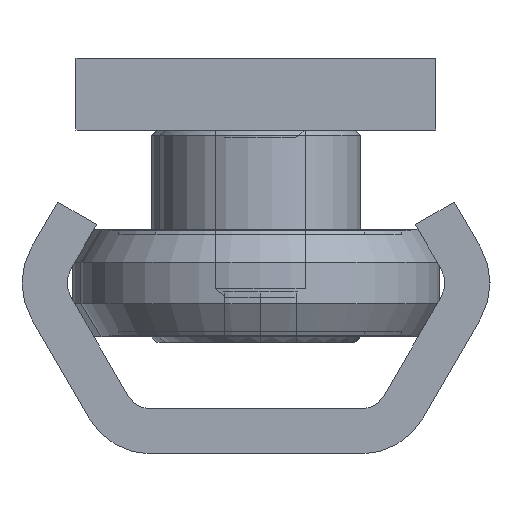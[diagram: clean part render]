
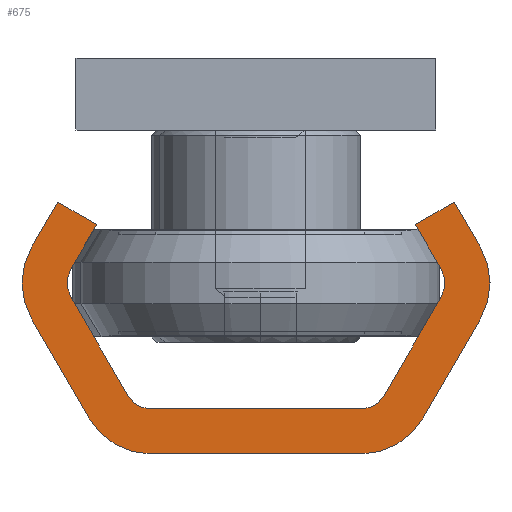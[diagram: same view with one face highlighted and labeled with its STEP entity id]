
A CAD part, left-side view. The second image highlights one B-rep face of the part: STEP entity #675.
In plain terms, the highlighted planar face has unit normal (-1, 0, 0).
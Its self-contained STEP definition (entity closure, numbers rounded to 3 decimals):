
#675 = ADVANCED_FACE( '', ( #1481 ), #1482, .F. );
#1481 = FACE_OUTER_BOUND( '', #2479, .T. );
#1482 = PLANE( '', #2480 );
#2479 = EDGE_LOOP( '', ( #3817, #3818, #3819, #3820, #3821, #3822, #3823, #3824, #3825, #3826, #3827, #3828, #3829, #3830, #3831, #3832, #3833, #3834, #3835, #3836 ) );
#2480 = AXIS2_PLACEMENT_3D( '', #3837, #3838, #3839 );
#3817 = ORIENTED_EDGE( '', *, *, #4075, .F. );
#3818 = ORIENTED_EDGE( '', *, *, #4436, .F. );
#3819 = ORIENTED_EDGE( '', *, *, #4443, .F. );
#3820 = ORIENTED_EDGE( '', *, *, #4145, .F. );
#3821 = ORIENTED_EDGE( '', *, *, #4486, .F. );
#3822 = ORIENTED_EDGE( '', *, *, #4482, .F. );
#3823 = ORIENTED_EDGE( '', *, *, #4246, .F. );
#3824 = ORIENTED_EDGE( '', *, *, #4258, .T. );
#3825 = ORIENTED_EDGE( '', *, *, #4302, .F. );
#3826 = ORIENTED_EDGE( '', *, *, #4505, .T. );
#3827 = ORIENTED_EDGE( '', *, *, #4347, .F. );
#3828 = ORIENTED_EDGE( '', *, *, #4115, .T. );
#3829 = ORIENTED_EDGE( '', *, *, #4491, .F. );
#3830 = ORIENTED_EDGE( '', *, *, #4454, .T. );
#3831 = ORIENTED_EDGE( '', *, *, #4211, .F. );
#3832 = ORIENTED_EDGE( '', *, *, #4503, .F. );
#3833 = ORIENTED_EDGE( '', *, *, #4290, .F. );
#3834 = ORIENTED_EDGE( '', *, *, #4029, .F. );
#3835 = ORIENTED_EDGE( '', *, *, #4441, .F. );
#3836 = ORIENTED_EDGE( '', *, *, #4108, .F. );
#3837 = CARTESIAN_POINT( '', ( 0., -5.825, -4. ) );
#3838 = DIRECTION( '', ( 1., 0., 0. ) );
#3839 = DIRECTION( '', ( 0., 0., -1. ) );
#4029 = EDGE_CURVE( '', #4584, #4585, #4586, .T. );
#4075 = EDGE_CURVE( '', #4675, #4676, #4677, .T. );
#4108 = EDGE_CURVE( '', #4676, #4730, #4731, .T. );
#4115 = EDGE_CURVE( '', #4741, #4742, #4743, .T. );
#4145 = EDGE_CURVE( '', #4789, #4790, #4791, .T. );
#4211 = EDGE_CURVE( '', #4894, #4895, #4896, .T. );
#4246 = EDGE_CURVE( '', #4950, #4951, #4952, .T. );
#4258 = EDGE_CURVE( '', #4950, #4969, #4970, .T. );
#4290 = EDGE_CURVE( '', #4585, #5020, #5021, .T. );
#4302 = EDGE_CURVE( '', #5037, #4969, #5038, .T. );
#4347 = EDGE_CURVE( '', #4741, #5117, #5118, .T. );
#4436 = EDGE_CURVE( '', #5236, #4675, #5237, .T. );
#4441 = EDGE_CURVE( '', #4730, #4584, #5243, .T. );
#4443 = EDGE_CURVE( '', #4790, #5236, #5245, .T. );
#4454 = EDGE_CURVE( '', #5259, #4895, #5260, .T. );
#4482 = EDGE_CURVE( '', #4951, #5297, #5298, .T. );
#4486 = EDGE_CURVE( '', #5297, #4789, #5302, .T. );
#4491 = EDGE_CURVE( '', #5259, #4742, #5307, .T. );
#4503 = EDGE_CURVE( '', #5020, #4894, #5320, .T. );
#4505 = EDGE_CURVE( '', #5037, #5117, #5322, .T. );
#4584 = VERTEX_POINT( '', #5406 );
#4585 = VERTEX_POINT( '', #5407 );
#4586 = CIRCLE( '', #5408, 4. );
#4675 = VERTEX_POINT( '', #5499 );
#4676 = VERTEX_POINT( '', #5500 );
#4677 = LINE( '', #5501, #5502 );
#4730 = VERTEX_POINT( '', #5562 );
#4731 = CIRCLE( '', #5563, 4. );
#4741 = VERTEX_POINT( '', #5574 );
#4742 = VERTEX_POINT( '', #5575 );
#4743 = CIRCLE( '', #5576, 1.5 );
#4789 = VERTEX_POINT( '', #5635 );
#4790 = VERTEX_POINT( '', #5636 );
#4791 = CIRCLE( '', #5637, 4. );
#4894 = VERTEX_POINT( '', #5761 );
#4895 = VERTEX_POINT( '', #5762 );
#4896 = LINE( '', #5763, #5764 );
#4950 = VERTEX_POINT( '', #5836 );
#4951 = VERTEX_POINT( '', #5837 );
#4952 = LINE( '', #5838, #5839 );
#4969 = VERTEX_POINT( '', #5860 );
#4970 = CIRCLE( '', #5861, 1.5 );
#5020 = VERTEX_POINT( '', #5918 );
#5021 = LINE( '', #5919, #5920 );
#5037 = VERTEX_POINT( '', #5937 );
#5038 = LINE( '', #5938, #5939 );
#5117 = VERTEX_POINT( '', #6021 );
#5118 = LINE( '', #6022, #6023 );
#5236 = VERTEX_POINT( '', #6159 );
#5237 = CIRCLE( '', #6160, 4. );
#5243 = LINE( '', #6167, #6168 );
#5245 = LINE( '', #6170, #6171 );
#5259 = VERTEX_POINT( '', #6185 );
#5260 = CIRCLE( '', #6186, 1.5 );
#5297 = VERTEX_POINT( '', #6230 );
#5298 = LINE( '', #6231, #6232 );
#5302 = LINE( '', #6237, #6238 );
#5307 = LINE( '', #6243, #6244 );
#5320 = LINE( '', #6257, #6258 );
#5322 = CIRCLE( '', #6260, 1.5 );
#5406 = CARTESIAN_POINT( '', ( 0., -12.464, -7.5 ) );
#5407 = CARTESIAN_POINT( '', ( 0., -12.464, -11.5 ) );
#5408 = AXIS2_PLACEMENT_3D( '', #6342, #6343, #6344 );
#5499 = CARTESIAN_POINT( '', ( 0., 5.825, 0. ) );
#5500 = CARTESIAN_POINT( '', ( 0., -5.825, 0. ) );
#5501 = CARTESIAN_POINT( '', ( 0., 5.825, 0. ) );
#5502 = VECTOR( '', #6473, 1000. );
#5562 = CARTESIAN_POINT( '', ( 0., -9.289, -2. ) );
#5563 = AXIS2_PLACEMENT_3D( '', #6523, #6524, #6525 );
#5574 = CARTESIAN_POINT( '', ( 0., -5.825, -2.5 ) );
#5575 = CARTESIAN_POINT( '', ( 0., -7.124, -3.25 ) );
#5576 = AXIS2_PLACEMENT_3D( '', #6536, #6537, #6538 );
#5635 = CARTESIAN_POINT( '', ( 0., 12.464, -11.5 ) );
#5636 = CARTESIAN_POINT( '', ( 0., 12.464, -7.5 ) );
#5637 = AXIS2_PLACEMENT_3D( '', #6570, #6571, #6572 );
#5761 = CARTESIAN_POINT( '', ( 0., -8.856, -12.75 ) );
#5762 = CARTESIAN_POINT( '', ( 0., -10.299, -10.25 ) );
#5763 = CARTESIAN_POINT( '', ( 0., -8.856, -12.75 ) );
#5764 = VECTOR( '', #6681, 1000. );
#5836 = CARTESIAN_POINT( '', ( 0., 10.299, -10.25 ) );
#5837 = CARTESIAN_POINT( '', ( 0., 8.856, -12.75 ) );
#5838 = CARTESIAN_POINT( '', ( 0., 10.299, -10.25 ) );
#5839 = VECTOR( '', #6724, 1000. );
#5860 = CARTESIAN_POINT( '', ( 0., 10.299, -8.75 ) );
#5861 = AXIS2_PLACEMENT_3D( '', #6744, #6745, #6746 );
#5918 = CARTESIAN_POINT( '', ( 0., -11.021, -14. ) );
#5919 = CARTESIAN_POINT( '', ( 0., -12.464, -11.5 ) );
#5920 = VECTOR( '', #6793, 1000. );
#5937 = CARTESIAN_POINT( '', ( 0., 7.124, -3.25 ) );
#5938 = CARTESIAN_POINT( '', ( 0., 7.124, -3.25 ) );
#5939 = VECTOR( '', #6810, 1000. );
#6021 = CARTESIAN_POINT( '', ( 0., 5.825, -2.5 ) );
#6022 = CARTESIAN_POINT( '', ( 0., -5.825, -2.5 ) );
#6023 = VECTOR( '', #6916, 1000. );
#6159 = CARTESIAN_POINT( '', ( 0., 9.289, -2. ) );
#6160 = AXIS2_PLACEMENT_3D( '', #7016, #7017, #7018 );
#6167 = CARTESIAN_POINT( '', ( 0., -9.289, -2. ) );
#6168 = VECTOR( '', #7023, 1000. );
#6170 = CARTESIAN_POINT( '', ( 0., 12.464, -7.5 ) );
#6171 = VECTOR( '', #7024, 1000. );
#6185 = CARTESIAN_POINT( '', ( 0., -10.299, -8.75 ) );
#6186 = AXIS2_PLACEMENT_3D( '', #7034, #7035, #7036 );
#6230 = CARTESIAN_POINT( '', ( 0., 11.021, -14. ) );
#6231 = CARTESIAN_POINT( '', ( 0., 8.856, -12.75 ) );
#6232 = VECTOR( '', #7080, 1000. );
#6237 = CARTESIAN_POINT( '', ( 0., 11.021, -14. ) );
#6238 = VECTOR( '', #7082, 1000. );
#6243 = CARTESIAN_POINT( '', ( 0., -10.299, -8.75 ) );
#6244 = VECTOR( '', #7083, 1000. );
#6257 = CARTESIAN_POINT( '', ( 0., -11.021, -14. ) );
#6258 = VECTOR( '', #7090, 1000. );
#6260 = AXIS2_PLACEMENT_3D( '', #7091, #7092, #7093 );
#6342 = CARTESIAN_POINT( '', ( 0., -9., -9.5 ) );
#6343 = DIRECTION( '', ( 1., 0., 0. ) );
#6344 = DIRECTION( '', ( 0., 0., -1. ) );
#6473 = DIRECTION( '', ( 0., -1., 0. ) );
#6523 = CARTESIAN_POINT( '', ( 0., -5.825, -4. ) );
#6524 = DIRECTION( '', ( 1., 0., 0. ) );
#6525 = DIRECTION( '', ( 0., 0., -1. ) );
#6536 = CARTESIAN_POINT( '', ( 0., -5.825, -4. ) );
#6537 = DIRECTION( '', ( 1., 0., 0. ) );
#6538 = DIRECTION( '', ( 0., 0., -1. ) );
#6570 = CARTESIAN_POINT( '', ( 0., 9., -9.5 ) );
#6571 = DIRECTION( '', ( 1., 0., 0. ) );
#6572 = DIRECTION( '', ( 0., 0., -1. ) );
#6681 = DIRECTION( '', ( 0., -0.5, 0.866 ) );
#6724 = DIRECTION( '', ( 0., -0.5, -0.866 ) );
#6744 = CARTESIAN_POINT( '', ( 0., 9., -9.5 ) );
#6745 = DIRECTION( '', ( 1., 0., 0. ) );
#6746 = DIRECTION( '', ( 0., 0., -1. ) );
#6793 = DIRECTION( '', ( 0., 0.5, -0.866 ) );
#6810 = DIRECTION( '', ( 0., 0.5, -0.866 ) );
#6916 = DIRECTION( '', ( 0., 1., 0. ) );
#7016 = CARTESIAN_POINT( '', ( 0., 5.825, -4. ) );
#7017 = DIRECTION( '', ( 1., 0., 0. ) );
#7018 = DIRECTION( '', ( 0., 0., -1. ) );
#7023 = DIRECTION( '', ( 0., -0.5, -0.866 ) );
#7024 = DIRECTION( '', ( 0., -0.5, 0.866 ) );
#7034 = CARTESIAN_POINT( '', ( 0., -9., -9.5 ) );
#7035 = DIRECTION( '', ( 1., 0., 0. ) );
#7036 = DIRECTION( '', ( 0., 0., -1. ) );
#7080 = DIRECTION( '', ( 0., 0.866, -0.5 ) );
#7082 = DIRECTION( '', ( 0., 0.5, 0.866 ) );
#7083 = DIRECTION( '', ( 0., 0.5, 0.866 ) );
#7090 = DIRECTION( '', ( 0., 0.866, 0.5 ) );
#7091 = CARTESIAN_POINT( '', ( 0., 5.825, -4. ) );
#7092 = DIRECTION( '', ( 1., 0., 0. ) );
#7093 = DIRECTION( '', ( 0., 0., -1. ) );
